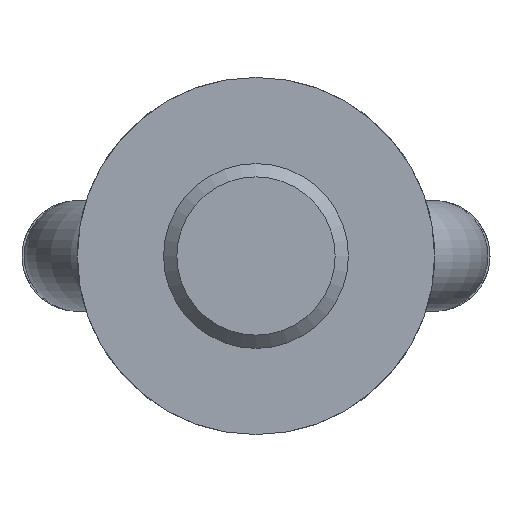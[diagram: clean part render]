
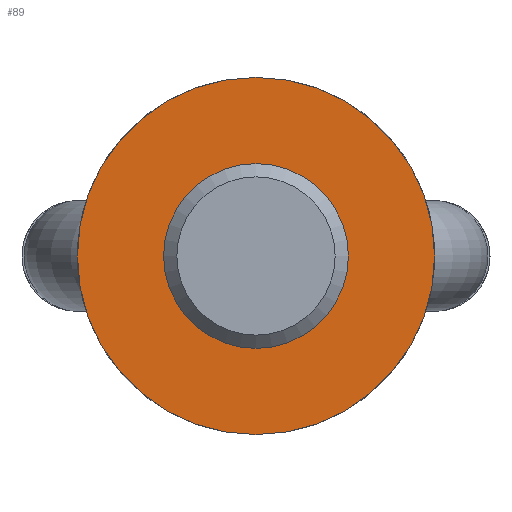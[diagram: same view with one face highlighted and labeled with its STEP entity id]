
A CAD part, front view. The second image highlights one B-rep face of the part: STEP entity #89.
In plain terms, the highlighted planar face has unit normal (0, -1, 0).
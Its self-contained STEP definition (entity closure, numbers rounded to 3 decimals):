
#89 = ADVANCED_FACE( '', ( #139, #140 ), #141, .F. );
#139 = FACE_BOUND( '', #209, .T. );
#140 = FACE_OUTER_BOUND( '', #210, .T. );
#141 = PLANE( '', #211 );
#209 = EDGE_LOOP( '', ( #343 ) );
#210 = EDGE_LOOP( '', ( #344 ) );
#211 = AXIS2_PLACEMENT_3D( '', #345, #346, #347 );
#343 = ORIENTED_EDGE( '', *, *, #473, .T. );
#344 = ORIENTED_EDGE( '', *, *, #474, .T. );
#345 = CARTESIAN_POINT( '', ( 29., 0., 0. ) );
#346 = DIRECTION( '', ( 0., 1., 0. ) );
#347 = DIRECTION( '', ( 0., 0., 1. ) );
#473 = EDGE_CURVE( '', #560, #560, #561, .T. );
#474 = EDGE_CURVE( '', #562, #562, #563, .T. );
#560 = VERTEX_POINT( '', #1038 );
#561 = CIRCLE( '', #1039, 15. );
#562 = VERTEX_POINT( '', #1040 );
#563 = CIRCLE( '', #1041, 29. );
#1038 = CARTESIAN_POINT( '', ( 0., 0., 15. ) );
#1039 = AXIS2_PLACEMENT_3D( '', #1109, #1110, #1111 );
#1040 = CARTESIAN_POINT( '', ( 0., 0., -29. ) );
#1041 = AXIS2_PLACEMENT_3D( '', #1112, #1113, #1114 );
#1109 = CARTESIAN_POINT( '', ( 0., 0., 0. ) );
#1110 = DIRECTION( '', ( 0., 1., 0. ) );
#1111 = DIRECTION( '', ( 0., 0., 1. ) );
#1112 = CARTESIAN_POINT( '', ( 0., 0., 0. ) );
#1113 = DIRECTION( '', ( 0., -1., 0. ) );
#1114 = DIRECTION( '', ( 0., 0., -1. ) );
